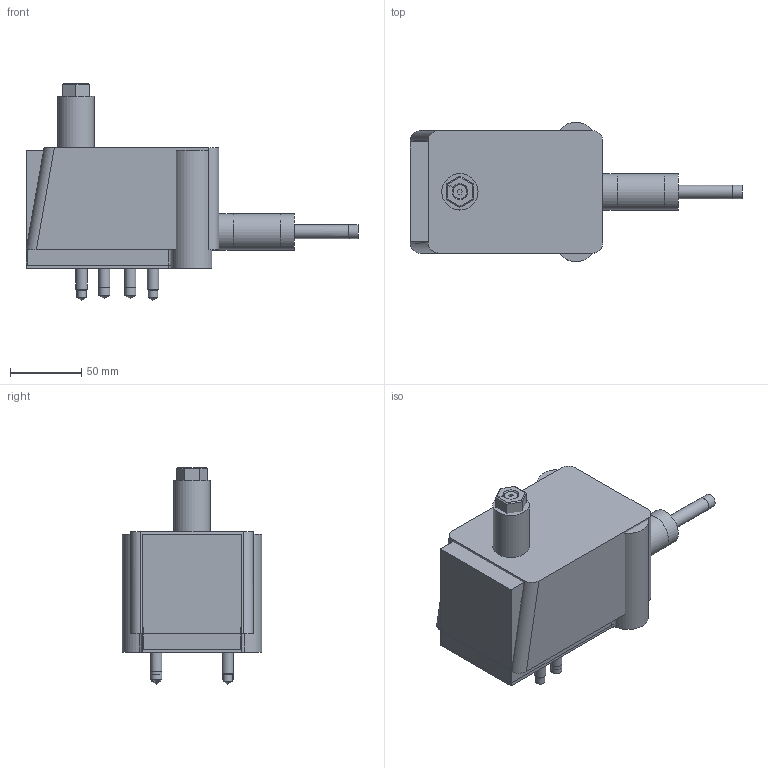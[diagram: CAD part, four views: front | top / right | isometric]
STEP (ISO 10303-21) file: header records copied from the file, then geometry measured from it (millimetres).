
FILE_DESCRIPTION(('STEP AP214'),'1');
FILE_NAME('EZ-00-S.stp','2020-12-08T18:04:38',(' '),(' '),'Spatial InterOp 3D',' ',' ');
FILE_SCHEMA(('AUTOMOTIVE_DESIGN { 1 0 10303 214 1 1 1 1 }'));
Length unit declared in the file: metre
Products named in the file (16): 1583758520; 1562099358; 1562100740; 1580689244; 1580689236; 1580689062; 1580689046; 1580689030; 1580689014; 1580688640; 1580688599; 1580688335; 1580700033; 1580702734; 1580702757; 1583519902
Bounding box: 232.59 x 97.71 x 151.73 mm (x, y, z)
Volume: 2374078.7 mm3; surface area: 222040.9 mm2
Topology: 16 solids, 16 shells, 260 faces, 576 edges, 367 vertices
Faces by surface type: plane 144, cylinder 64, cone 39, torus 7, bspline 4, sphere 2
Full cylindrical faces by diameter (mm): 3.797 x1, 4.089 x1, 4.826 x3, 5.159 x1, 6.35 x1, 6.528 x2, 7.938 x11, 8.433 x1, 8.5 x2, 8.731 x1, 9.5 x1, 9.525 x4, 11.906 x2, 12.7 x2, 12.751 x1, 14.25 x2, 15.875 x1, 25.146 x1, 25.4 x1, 25.527 x1, 26.746 x2, 27 x2, 50.292 x1
Entity records: 19290 total; most frequent: CARTESIAN_POINT 11607, DIRECTION 1170, ORIENTED_EDGE 922, EDGE_CURVE 461, AXIS2_PLACEMENT_3D 451, EDGE_LOOP 373, VERTEX_POINT 340, FACE_OUTER_BOUND 309
